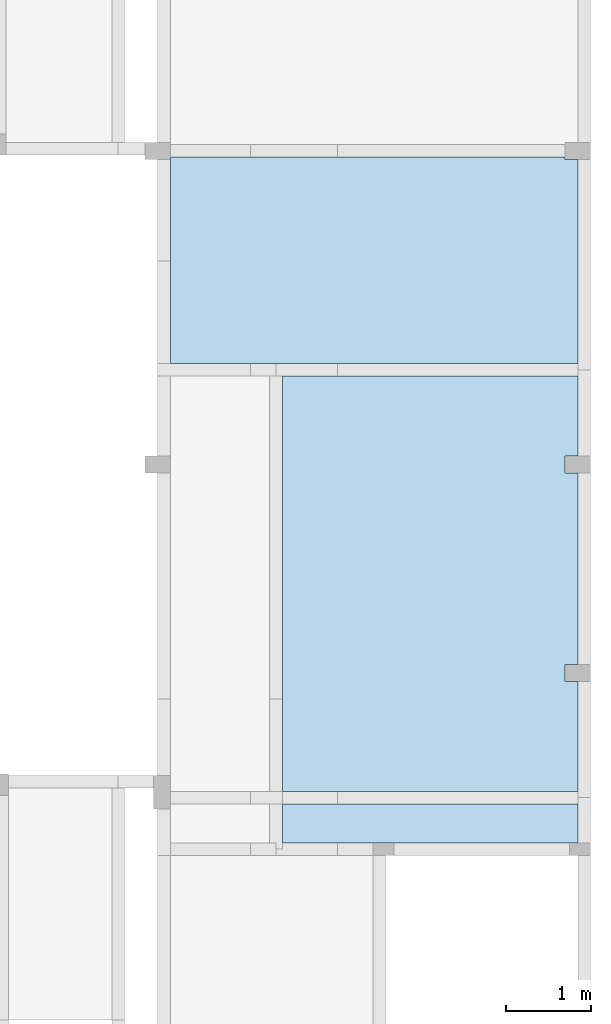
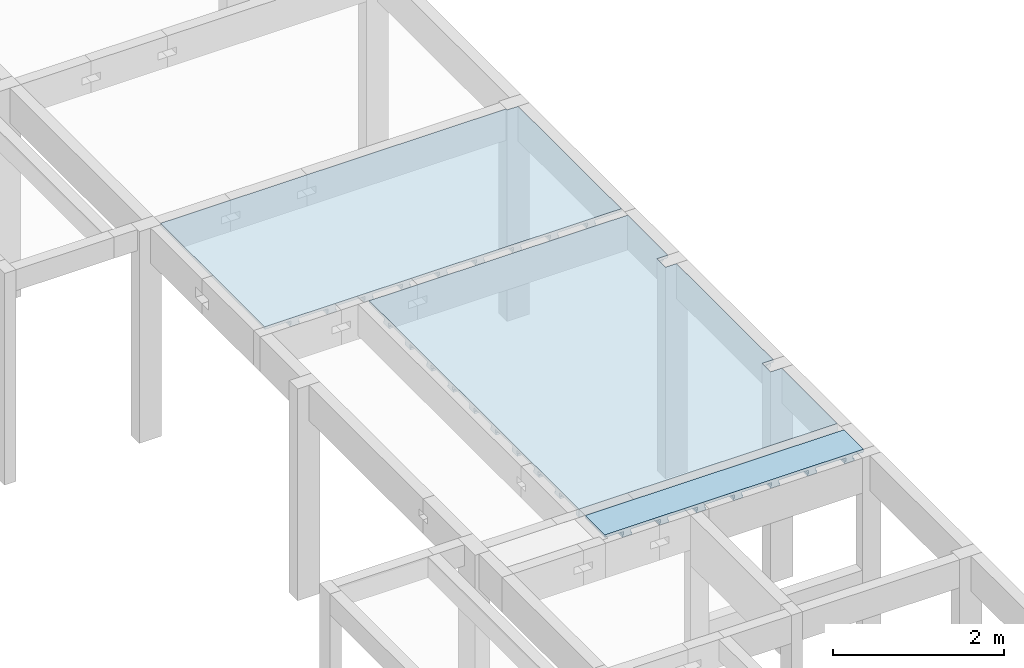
# One storey, part 19 of 21: 3 slabs.
"""IFC4 building model written with IfcOpenShell, lengths in centimetres."""

from ifc_helpers import new_model, si_unit, derived_unit, frame, origin_with_axes, place, context, project, spatial, polyline, outline, extrude, faceted_brep, material, element, save


model = new_model("IFC4")

# Units and contexts
model_context = context("Model", 3, precision=1e-05, world=origin_with_axes(), identifier="Body")
ifc_project = project(units=[si_unit("LENGTHUNIT", "METRE", prefix="CENTI"), si_unit("VOLUMEUNIT", "CUBIC_METRE"), si_unit("AREAUNIT", "SQUARE_METRE"), si_unit("POWERUNIT", "WATT"), si_unit("LUMINOUSFLUXUNIT", "LUMEN"), si_unit("ELECTRICCURRENTUNIT", "AMPERE"), si_unit("PRESSUREUNIT", "PASCAL", prefix="KILO"), si_unit("MASSUNIT", "GRAM", prefix="KILO"), si_unit("PLANEANGLEUNIT", "RADIAN"), derived_unit("VOLUMETRICFLOWRATEUNIT", [(si_unit("LENGTHUNIT", "METRE"), 3), (si_unit("TIMEUNIT", "SECOND"), -1)])], contexts=[model_context])

# Site, building, storey
site_placement = place(None, origin_with_axes())
site = spatial("IfcSite", under=ifc_project, at=site_placement)
building_placement = place(site_placement, frame((0.0, 0.0, -295.0)))
building = spatial("IfcBuilding", under=site, at=building_placement)
placement_1 = place(building_placement, origin_with_axes())
placement_2 = place(placement_1, frame((0.0, 0.0, 101.0), z_axis=(0.0, 0.0, 1.0), x_axis=(1.0, 0.0, 0.0)))
placement_3 = place(placement_2, frame((0.0, 0.0, 204.0), z_axis=(0.0, 0.0, 1.0), x_axis=(1.0, 0.0, 0.0)))
placement_4 = place(placement_3, frame((0.0, 0.0, 292.0), z_axis=(0.0, 0.0, 1.0), x_axis=(1.0, 0.0, 0.0)))
storey_placement = place(placement_4, frame((0.0, 0.0, 302.0), z_axis=(0.0, 0.0, 1.0), x_axis=(1.0, 0.0, 0.0)))
storey = spatial("IfcBuildingStorey", under=building, at=storey_placement, Name="PAVTO 02", CompositionType="ELEMENT", Elevation=604.0)

# Slabs
ifc_material = material(Name="Concreto")
slab_1_placement = place(storey_placement, frame((3761.24, -5897.8, 0.0), z_axis=(0.0, 0.0, 1.0), x_axis=(1.0, 0.0, 0.0)))
element("IfcSlab", 1, at=slab_1_placement, inside=storey, material=ifc_material, Name="L219", PredefinedType="FLOOR", context=model_context, shape_type="SolidModel", body=[
    extrude(outline(polyline([(240.51, 119.249), (225.52, 119.249), (225.52, 121.749), (-240.51, 121.75), (-240.51, -121.749), (240.51, -121.75), (240.51, 119.249), (240.51, 119.249)])), frame((0.0, 0.0, -4.0), z_axis=(0.0, 0.0, 1.0), x_axis=(1.0, 0.0, 0.0)), (0.0, 0.0, 1.0), 4.0),
    faceted_brep([(-5.0, -121.7495, -12.0), (-5.0, 121.7495, -12.0), (5.0, 121.7495, -12.0), (5.0, -121.7495, -12.0), (5.0, -121.7495, -4.0), (5.0, 121.7495, -4.0), (-5.0, 121.7495, -4.0), (-5.0, -121.7495, -4.0)], [[[0, 1, 2, 3]], [[4, 5, 6, 7]], [[4, 3, 5]], [[3, 2, 5]], [[5, 2, 6]], [[2, 1, 6]], [[6, 1, 7]], [[1, 0, 7]], [[7, 0, 4]], [[0, 3, 4]]]),
    faceted_brep([(-6.5, -121.7495, -12.0), (-6.5, 121.7495, -12.0), (-5.0, 121.7495, -12.0), (-5.0, -121.7495, -12.0), (-5.0, -121.7495, -9.0), (-5.0, 121.7495, -9.0), (-6.5, 121.7495, -9.0), (-6.5, -121.7495, -9.0)], [[[0, 1, 2, 3]], [[4, 5, 6, 7]], [[4, 3, 5]], [[3, 2, 5]], [[5, 2, 6]], [[2, 1, 6]], [[6, 1, 7]], [[1, 0, 7]], [[7, 0, 4]], [[0, 3, 4]]]),
    faceted_brep([(5.0, -121.7495, -12.0), (5.0, 121.7495, -12.0), (6.5, 121.7495, -12.0), (6.5, -121.7495, -12.0), (6.5, -121.7495, -9.0), (6.5, 121.7495, -9.0), (5.0, 121.7495, -9.0), (5.0, -121.7495, -9.0)], [[[0, 1, 2, 3]], [[4, 5, 6, 7]], [[4, 3, 5]], [[3, 2, 5]], [[5, 2, 6]], [[2, 1, 6]], [[6, 1, 7]], [[1, 0, 7]], [[7, 0, 4]], [[0, 3, 4]]]),
    faceted_brep([(-55.0, -121.7495, -12.0), (-55.0, 121.7495, -12.0), (-45.0, 121.7495, -12.0), (-45.0, -121.7495, -12.0), (-45.0, -121.7495, -4.0), (-45.0, 121.7495, -4.0), (-55.0, 121.7495, -4.0), (-55.0, -121.7495, -4.0)], [[[0, 1, 2, 3]], [[4, 5, 6, 7]], [[4, 3, 5]], [[3, 2, 5]], [[5, 2, 6]], [[2, 1, 6]], [[6, 1, 7]], [[1, 0, 7]], [[7, 0, 4]], [[0, 3, 4]]]),
    faceted_brep([(-56.5, -121.7495, -12.0), (-56.5, 121.7495, -12.0), (-55.0, 121.7495, -12.0), (-55.0, -121.7495, -12.0), (-55.0, -121.7495, -9.0), (-55.0, 121.7495, -9.0), (-56.5, 121.7495, -9.0), (-56.5, -121.7495, -9.0)], [[[0, 1, 2, 3]], [[4, 5, 6, 7]], [[4, 3, 5]], [[3, 2, 5]], [[5, 2, 6]], [[2, 1, 6]], [[6, 1, 7]], [[1, 0, 7]], [[7, 0, 4]], [[0, 3, 4]]]),
    faceted_brep([(-45.0, -121.7495, -12.0), (-45.0, 121.7495, -12.0), (-43.5, 121.7495, -12.0), (-43.5, -121.7495, -12.0), (-43.5, -121.7495, -9.0), (-43.5, 121.7495, -9.0), (-45.0, 121.7495, -9.0), (-45.0, -121.7495, -9.0)], [[[0, 1, 2, 3]], [[4, 5, 6, 7]], [[4, 3, 5]], [[3, 2, 5]], [[5, 2, 6]], [[2, 1, 6]], [[6, 1, 7]], [[1, 0, 7]], [[7, 0, 4]], [[0, 3, 4]]]),
    faceted_brep([(-105.0, -121.7495, -12.0), (-105.0, 121.7495, -12.0), (-95.0, 121.7495, -12.0), (-95.0, -121.7495, -12.0), (-95.0, -121.7495, -4.0), (-95.0, 121.7495, -4.0), (-105.0, 121.7495, -4.0), (-105.0, -121.7495, -4.0)], [[[0, 1, 2, 3]], [[4, 5, 6, 7]], [[4, 3, 5]], [[3, 2, 5]], [[5, 2, 6]], [[2, 1, 6]], [[6, 1, 7]], [[1, 0, 7]], [[7, 0, 4]], [[0, 3, 4]]]),
    faceted_brep([(-106.5, -121.7495, -12.0), (-106.5, 121.7495, -12.0), (-105.0, 121.7495, -12.0), (-105.0, -121.7495, -12.0), (-105.0, -121.7495, -9.0), (-105.0, 121.7495, -9.0), (-106.5, 121.7495, -9.0), (-106.5, -121.7495, -9.0)], [[[0, 1, 2, 3]], [[4, 5, 6, 7]], [[4, 3, 5]], [[3, 2, 5]], [[5, 2, 6]], [[2, 1, 6]], [[6, 1, 7]], [[1, 0, 7]], [[7, 0, 4]], [[0, 3, 4]]]),
    faceted_brep([(-95.0, -121.7495, -12.0), (-95.0, 121.7495, -12.0), (-93.5, 121.7495, -12.0), (-93.5, -121.7495, -12.0), (-93.5, -121.7495, -9.0), (-93.5, 121.7495, -9.0), (-95.0, 121.7495, -9.0), (-95.0, -121.7495, -9.0)], [[[0, 1, 2, 3]], [[4, 5, 6, 7]], [[4, 3, 5]], [[3, 2, 5]], [[5, 2, 6]], [[2, 1, 6]], [[6, 1, 7]], [[1, 0, 7]], [[7, 0, 4]], [[0, 3, 4]]]),
    faceted_brep([(-155.0, -121.7495, -12.0), (-155.0, 121.7495, -12.0), (-145.0, 121.7495, -12.0), (-145.0, -121.7495, -12.0), (-145.0, -121.7495, -4.0), (-145.0, 121.7495, -4.0), (-155.0, 121.7495, -4.0), (-155.0, -121.7495, -4.0)], [[[0, 1, 2, 3]], [[4, 5, 6, 7]], [[4, 3, 5]], [[3, 2, 5]], [[5, 2, 6]], [[2, 1, 6]], [[6, 1, 7]], [[1, 0, 7]], [[7, 0, 4]], [[0, 3, 4]]]),
    faceted_brep([(-156.5, -121.7495, -12.0), (-156.5, 121.7495, -12.0), (-155.0, 121.7495, -12.0), (-155.0, -121.7495, -12.0), (-155.0, -121.7495, -9.0), (-155.0, 121.7495, -9.0), (-156.5, 121.7495, -9.0), (-156.5, -121.7495, -9.0)], [[[0, 1, 2, 3]], [[4, 5, 6, 7]], [[4, 3, 5]], [[3, 2, 5]], [[5, 2, 6]], [[2, 1, 6]], [[6, 1, 7]], [[1, 0, 7]], [[7, 0, 4]], [[0, 3, 4]]]),
    faceted_brep([(-145.0, -121.7495, -12.0), (-145.0, 121.7495, -12.0), (-143.5, 121.7495, -12.0), (-143.5, -121.7495, -12.0), (-143.5, -121.7495, -9.0), (-143.5, 121.7495, -9.0), (-145.0, 121.7495, -9.0), (-145.0, -121.7495, -9.0)], [[[0, 1, 2, 3]], [[4, 5, 6, 7]], [[4, 3, 5]], [[3, 2, 5]], [[5, 2, 6]], [[2, 1, 6]], [[6, 1, 7]], [[1, 0, 7]], [[7, 0, 4]], [[0, 3, 4]]]),
    faceted_brep([(-205.0, -121.7495, -12.0), (-205.0, 121.7495, -12.0), (-195.0, 121.7495, -12.0), (-195.0, -121.7495, -12.0), (-195.0, -121.7495, -4.0), (-195.0, 121.7495, -4.0), (-205.0, 121.7495, -4.0), (-205.0, -121.7495, -4.0)], [[[0, 1, 2, 3]], [[4, 5, 6, 7]], [[4, 3, 5]], [[3, 2, 5]], [[5, 2, 6]], [[2, 1, 6]], [[6, 1, 7]], [[1, 0, 7]], [[7, 0, 4]], [[0, 3, 4]]]),
    faceted_brep([(-206.5, -121.7495, -12.0), (-206.5, 121.7495, -12.0), (-205.0, 121.7495, -12.0), (-205.0, -121.7495, -12.0), (-205.0, -121.7495, -9.0), (-205.0, 121.7495, -9.0), (-206.5, 121.7495, -9.0), (-206.5, -121.7495, -9.0)], [[[0, 1, 2, 3]], [[4, 5, 6, 7]], [[4, 3, 5]], [[3, 2, 5]], [[5, 2, 6]], [[2, 1, 6]], [[6, 1, 7]], [[1, 0, 7]], [[7, 0, 4]], [[0, 3, 4]]]),
    faceted_brep([(-195.0, -121.7495, -12.0), (-195.0, 121.7495, -12.0), (-193.5, 121.7495, -12.0), (-193.5, -121.7495, -12.0), (-193.5, -121.7495, -9.0), (-193.5, 121.7495, -9.0), (-195.0, 121.7495, -9.0), (-195.0, -121.7495, -9.0)], [[[0, 1, 2, 3]], [[4, 5, 6, 7]], [[4, 3, 5]], [[3, 2, 5]], [[5, 2, 6]], [[2, 1, 6]], [[6, 1, 7]], [[1, 0, 7]], [[7, 0, 4]], [[0, 3, 4]]]),
    faceted_brep([(45.0, -121.7495, -12.0), (45.0, 121.7495, -12.0), (55.0, 121.7495, -12.0), (55.0, -121.7495, -12.0), (55.0, -121.7495, -4.0), (55.0, 121.7495, -4.0), (45.0, 121.7495, -4.0), (45.0, -121.7495, -4.0)], [[[0, 1, 2, 3]], [[4, 5, 6, 7]], [[4, 3, 5]], [[3, 2, 5]], [[5, 2, 6]], [[2, 1, 6]], [[6, 1, 7]], [[1, 0, 7]], [[7, 0, 4]], [[0, 3, 4]]]),
    faceted_brep([(43.5, -121.7495, -12.0), (43.5, 121.7495, -12.0), (45.0, 121.7495, -12.0), (45.0, -121.7495, -12.0), (45.0, -121.7495, -9.0), (45.0, 121.7495, -9.0), (43.5, 121.7495, -9.0), (43.5, -121.7495, -9.0)], [[[0, 1, 2, 3]], [[4, 5, 6, 7]], [[4, 3, 5]], [[3, 2, 5]], [[5, 2, 6]], [[2, 1, 6]], [[6, 1, 7]], [[1, 0, 7]], [[7, 0, 4]], [[0, 3, 4]]]),
    faceted_brep([(55.0, -121.7495, -12.0), (55.0, 121.7495, -12.0), (56.5, 121.7495, -12.0), (56.5, -121.7495, -12.0), (56.5, -121.7495, -9.0), (56.5, 121.7495, -9.0), (55.0, 121.7495, -9.0), (55.0, -121.7495, -9.0)], [[[0, 1, 2, 3]], [[4, 5, 6, 7]], [[4, 3, 5]], [[3, 2, 5]], [[5, 2, 6]], [[2, 1, 6]], [[6, 1, 7]], [[1, 0, 7]], [[7, 0, 4]], [[0, 3, 4]]]),
    faceted_brep([(95.0, -121.7495, -12.0), (95.0, 121.7495, -12.0), (105.0, 121.7495, -12.0), (105.0, -121.7495, -12.0), (105.0, -121.7495, -4.0), (105.0, 121.7495, -4.0), (95.0, 121.7495, -4.0), (95.0, -121.7495, -4.0)], [[[0, 1, 2, 3]], [[4, 5, 6, 7]], [[4, 3, 5]], [[3, 2, 5]], [[5, 2, 6]], [[2, 1, 6]], [[6, 1, 7]], [[1, 0, 7]], [[7, 0, 4]], [[0, 3, 4]]]),
    faceted_brep([(93.5, -121.7495, -12.0), (93.5, 121.7495, -12.0), (95.0, 121.7495, -12.0), (95.0, -121.7495, -12.0), (95.0, -121.7495, -9.0), (95.0, 121.7495, -9.0), (93.5, 121.7495, -9.0), (93.5, -121.7495, -9.0)], [[[0, 1, 2, 3]], [[4, 5, 6, 7]], [[4, 3, 5]], [[3, 2, 5]], [[5, 2, 6]], [[2, 1, 6]], [[6, 1, 7]], [[1, 0, 7]], [[7, 0, 4]], [[0, 3, 4]]]),
    faceted_brep([(105.0, -121.7495, -12.0), (105.0, 121.7495, -12.0), (106.5, 121.7495, -12.0), (106.5, -121.7495, -12.0), (106.5, -121.7495, -9.0), (106.5, 121.7495, -9.0), (105.0, 121.7495, -9.0), (105.0, -121.7495, -9.0)], [[[0, 1, 2, 3]], [[4, 5, 6, 7]], [[4, 3, 5]], [[3, 2, 5]], [[5, 2, 6]], [[2, 1, 6]], [[6, 1, 7]], [[1, 0, 7]], [[7, 0, 4]], [[0, 3, 4]]]),
    faceted_brep([(145.0, -121.7495, -12.0), (145.0, 121.7495, -12.0), (155.0, 121.7495, -12.0), (155.0, -121.7495, -12.0), (155.0, -121.7495, -4.0), (155.0, 121.7495, -4.0), (145.0, 121.7495, -4.0), (145.0, -121.7495, -4.0)], [[[0, 1, 2, 3]], [[4, 5, 6, 7]], [[4, 3, 5]], [[3, 2, 5]], [[5, 2, 6]], [[2, 1, 6]], [[6, 1, 7]], [[1, 0, 7]], [[7, 0, 4]], [[0, 3, 4]]]),
    faceted_brep([(143.5, -121.7495, -12.0), (143.5, 121.7495, -12.0), (145.0, 121.7495, -12.0), (145.0, -121.7495, -12.0), (145.0, -121.7495, -9.0), (145.0, 121.7495, -9.0), (143.5, 121.7495, -9.0), (143.5, -121.7495, -9.0)], [[[0, 1, 2, 3]], [[4, 5, 6, 7]], [[4, 3, 5]], [[3, 2, 5]], [[5, 2, 6]], [[2, 1, 6]], [[6, 1, 7]], [[1, 0, 7]], [[7, 0, 4]], [[0, 3, 4]]]),
    faceted_brep([(155.0, -121.7495, -12.0), (155.0, 121.7495, -12.0), (156.5, 121.7495, -12.0), (156.5, -121.7495, -12.0), (156.5, -121.7495, -9.0), (156.5, 121.7495, -9.0), (155.0, 121.7495, -9.0), (155.0, -121.7495, -9.0)], [[[0, 1, 2, 3]], [[4, 5, 6, 7]], [[4, 3, 5]], [[3, 2, 5]], [[5, 2, 6]], [[2, 1, 6]], [[6, 1, 7]], [[1, 0, 7]], [[7, 0, 4]], [[0, 3, 4]]]),
    faceted_brep([(195.0, -121.7495, -12.0), (195.0, 121.7495, -12.0), (205.0, 121.7495, -12.0), (205.0, -121.7495, -12.0), (205.0, -121.7495, -4.0), (205.0, 121.7495, -4.0), (195.0, 121.7495, -4.0), (195.0, -121.7495, -4.0)], [[[0, 1, 2, 3]], [[4, 5, 6, 7]], [[4, 3, 5]], [[3, 2, 5]], [[5, 2, 6]], [[2, 1, 6]], [[6, 1, 7]], [[1, 0, 7]], [[7, 0, 4]], [[0, 3, 4]]]),
    faceted_brep([(193.5, -121.7495, -12.0), (193.5, 121.7495, -12.0), (195.0, 121.7495, -12.0), (195.0, -121.7495, -12.0), (195.0, -121.7495, -9.0), (195.0, 121.7495, -9.0), (193.5, 121.7495, -9.0), (193.5, -121.7495, -9.0)], [[[0, 1, 2, 3]], [[4, 5, 6, 7]], [[4, 3, 5]], [[3, 2, 5]], [[5, 2, 6]], [[2, 1, 6]], [[6, 1, 7]], [[1, 0, 7]], [[7, 0, 4]], [[0, 3, 4]]]),
    faceted_brep([(205.0, -121.7495, -12.0), (205.0, 121.7495, -12.0), (206.5, 121.7495, -12.0), (206.5, -121.7495, -12.0), (206.5, -121.7495, -9.0), (206.5, 121.7495, -9.0), (205.0, 121.7495, -9.0), (205.0, -121.7495, -9.0)], [[[0, 1, 2, 3]], [[4, 5, 6, 7]], [[4, 3, 5]], [[3, 2, 5]], [[5, 2, 6]], [[2, 1, 6]], [[6, 1, 7]], [[1, 0, 7]], [[7, 0, 4]], [[0, 3, 4]]]),
])
slab_2_placement = place(storey_placement, frame((3827.325, -6279.5505, 0.0), z_axis=(0.0, 0.0, 1.0), x_axis=(1.0, 0.0, 0.0)))
element("IfcSlab", 2, at=slab_2_placement, inside=storey, material=ifc_material, Name="L223", PredefinedType="FLOOR", context=model_context, shape_type="SolidModel", body=[
    extrude(outline(polyline([(174.425, -115.1), (159.435, -115.099), (159.435, -95.099), (174.424, -95.1), (174.424, 130.999), (159.435, 130.999), (159.435, 150.999), (174.424, 151.0), (174.425, 244.999), (-174.424, 244.999), (-174.425, -245.0), (174.425, -245.0), (174.425, -115.1), (174.425, -115.1)])), frame((0.0, 0.0005, -4.0), z_axis=(0.0, 0.0, 1.0), x_axis=(1.0, 0.0, 0.0)), (0.0, 0.0, 1.0), 4.0),
    faceted_brep([(-174.4245, -189.9995, -12.0), (174.425, -189.9995, -12.0), (174.425, -199.9995, -12.0), (-174.4245, -199.9995, -12.0), (-174.4245, -199.9995, -4.0), (174.425, -199.9995, -4.0), (174.425, -189.9995, -4.0), (-174.4245, -189.9995, -4.0)], [[[0, 1, 2, 3]], [[4, 5, 6, 7]], [[4, 3, 5]], [[3, 2, 5]], [[5, 2, 6]], [[2, 1, 6]], [[6, 1, 7]], [[1, 0, 7]], [[7, 0, 4]], [[0, 3, 4]]]),
    faceted_brep([(-174.4245, -188.4995, -12.0), (174.425, -188.4995, -12.0), (174.425, -189.9995, -12.0), (-174.4245, -189.9995, -12.0), (-174.4245, -189.9995, -9.0), (174.425, -189.9995, -9.0), (174.425, -188.4995, -9.0), (-174.4245, -188.4995, -9.0)], [[[0, 1, 2, 3]], [[4, 5, 6, 7]], [[4, 3, 5]], [[3, 2, 5]], [[5, 2, 6]], [[2, 1, 6]], [[6, 1, 7]], [[1, 0, 7]], [[7, 0, 4]], [[0, 3, 4]]]),
    faceted_brep([(-174.4245, -199.9995, -12.0), (174.425, -199.9995, -12.0), (174.425, -201.4995, -12.0), (-174.4245, -201.4995, -12.0), (-174.4245, -201.4995, -9.0), (174.425, -201.4995, -9.0), (174.425, -199.9995, -9.0), (-174.4245, -199.9995, -9.0)], [[[0, 1, 2, 3]], [[4, 5, 6, 7]], [[4, 3, 5]], [[3, 2, 5]], [[5, 2, 6]], [[2, 1, 6]], [[6, 1, 7]], [[1, 0, 7]], [[7, 0, 4]], [[0, 3, 4]]]),
    faceted_brep([(-174.4245, -139.9995, -12.0), (174.425, -139.9995, -12.0), (174.425, -149.9995, -12.0), (-174.4245, -149.9995, -12.0), (-174.4245, -149.9995, -4.0), (174.425, -149.9995, -4.0), (174.425, -139.9995, -4.0), (-174.4245, -139.9995, -4.0)], [[[0, 1, 2, 3]], [[4, 5, 6, 7]], [[4, 3, 5]], [[3, 2, 5]], [[5, 2, 6]], [[2, 1, 6]], [[6, 1, 7]], [[1, 0, 7]], [[7, 0, 4]], [[0, 3, 4]]]),
    faceted_brep([(-174.4245, -138.4995, -12.0), (174.425, -138.4995, -12.0), (174.425, -139.9995, -12.0), (-174.4245, -139.9995, -12.0), (-174.4245, -139.9995, -9.0), (174.425, -139.9995, -9.0), (174.425, -138.4995, -9.0), (-174.4245, -138.4995, -9.0)], [[[0, 1, 2, 3]], [[4, 5, 6, 7]], [[4, 3, 5]], [[3, 2, 5]], [[5, 2, 6]], [[2, 1, 6]], [[6, 1, 7]], [[1, 0, 7]], [[7, 0, 4]], [[0, 3, 4]]]),
    faceted_brep([(-174.4245, -149.9995, -12.0), (174.425, -149.9995, -12.0), (174.425, -151.4995, -12.0), (-174.4245, -151.4995, -12.0), (-174.4245, -151.4995, -9.0), (174.425, -151.4995, -9.0), (174.425, -149.9995, -9.0), (-174.4245, -149.9995, -9.0)], [[[0, 1, 2, 3]], [[4, 5, 6, 7]], [[4, 3, 5]], [[3, 2, 5]], [[5, 2, 6]], [[2, 1, 6]], [[6, 1, 7]], [[1, 0, 7]], [[7, 0, 4]], [[0, 3, 4]]]),
    faceted_brep([(-174.4245, -89.9995, -12.0), (174.424, -89.9995, -12.0), (159.435, -99.9995, -12.0), (-174.4245, -99.9995, -12.0), (-174.4245, -99.9995, -4.0), (159.435, -99.9995, -4.0), (174.424, -89.9995, -4.0), (-174.4245, -89.9995, -4.0)], [[[0, 1, 2, 3]], [[4, 5, 6, 7]], [[4, 3, 5]], [[3, 2, 5]], [[5, 2, 6]], [[2, 1, 6]], [[6, 1, 7]], [[1, 0, 7]], [[7, 0, 4]], [[0, 3, 4]]]),
    faceted_brep([(-174.4245, -88.4995, -12.0), (174.424, -88.4995, -12.0), (174.424, -89.9995, -12.0), (-174.4245, -89.9995, -12.0), (-174.4245, -89.9995, -9.0), (174.424, -89.9995, -9.0), (174.424, -88.4995, -9.0), (-174.4245, -88.4995, -9.0)], [[[0, 1, 2, 3]], [[4, 5, 6, 7]], [[4, 3, 5]], [[3, 2, 5]], [[5, 2, 6]], [[2, 1, 6]], [[6, 1, 7]], [[1, 0, 7]], [[7, 0, 4]], [[0, 3, 4]]]),
    faceted_brep([(-174.4245, -99.9995, -12.0), (159.435, -99.9995, -12.0), (159.435, -101.4995, -12.0), (-174.4245, -101.4995, -12.0), (-174.4245, -101.4995, -9.0), (159.435, -101.4995, -9.0), (159.435, -99.9995, -9.0), (-174.4245, -99.9995, -9.0)], [[[0, 1, 2, 3]], [[4, 5, 6, 7]], [[4, 3, 5]], [[3, 2, 5]], [[5, 2, 6]], [[2, 1, 6]], [[6, 1, 7]], [[1, 0, 7]], [[7, 0, 4]], [[0, 3, 4]]]),
    faceted_brep([(-174.4245, -39.9995, -12.0), (174.424, -39.9995, -12.0), (174.424, -49.9995, -12.0), (-174.4245, -49.9995, -12.0), (-174.4245, -49.9995, -4.0), (174.424, -49.9995, -4.0), (174.424, -39.9995, -4.0), (-174.4245, -39.9995, -4.0)], [[[0, 1, 2, 3]], [[4, 5, 6, 7]], [[4, 3, 5]], [[3, 2, 5]], [[5, 2, 6]], [[2, 1, 6]], [[6, 1, 7]], [[1, 0, 7]], [[7, 0, 4]], [[0, 3, 4]]]),
    faceted_brep([(-174.4245, -38.4995, -12.0), (174.424, -38.4995, -12.0), (174.424, -39.9995, -12.0), (-174.4245, -39.9995, -12.0), (-174.4245, -39.9995, -9.0), (174.424, -39.9995, -9.0), (174.424, -38.4995, -9.0), (-174.4245, -38.4995, -9.0)], [[[0, 1, 2, 3]], [[4, 5, 6, 7]], [[4, 3, 5]], [[3, 2, 5]], [[5, 2, 6]], [[2, 1, 6]], [[6, 1, 7]], [[1, 0, 7]], [[7, 0, 4]], [[0, 3, 4]]]),
    faceted_brep([(-174.4245, -49.9995, -12.0), (174.424, -49.9995, -12.0), (174.424, -51.4995, -12.0), (-174.4245, -51.4995, -12.0), (-174.4245, -51.4995, -9.0), (174.424, -51.4995, -9.0), (174.424, -49.9995, -9.0), (-174.4245, -49.9995, -9.0)], [[[0, 1, 2, 3]], [[4, 5, 6, 7]], [[4, 3, 5]], [[3, 2, 5]], [[5, 2, 6]], [[2, 1, 6]], [[6, 1, 7]], [[1, 0, 7]], [[7, 0, 4]], [[0, 3, 4]]]),
    faceted_brep([(-174.4245, 10.0005, -12.0), (174.424, 10.0005, -12.0), (174.424, 0.0005, -12.0), (-174.4245, 0.0005, -12.0), (-174.4245, 0.0005, -4.0), (174.424, 0.0005, -4.0), (174.424, 10.0005, -4.0), (-174.4245, 10.0005, -4.0)], [[[0, 1, 2, 3]], [[4, 5, 6, 7]], [[4, 3, 5]], [[3, 2, 5]], [[5, 2, 6]], [[2, 1, 6]], [[6, 1, 7]], [[1, 0, 7]], [[7, 0, 4]], [[0, 3, 4]]]),
    faceted_brep([(-174.4245, 11.5005, -12.0), (174.424, 11.5005, -12.0), (174.424, 10.0005, -12.0), (-174.4245, 10.0005, -12.0), (-174.4245, 10.0005, -9.0), (174.424, 10.0005, -9.0), (174.424, 11.5005, -9.0), (-174.4245, 11.5005, -9.0)], [[[0, 1, 2, 3]], [[4, 5, 6, 7]], [[4, 3, 5]], [[3, 2, 5]], [[5, 2, 6]], [[2, 1, 6]], [[6, 1, 7]], [[1, 0, 7]], [[7, 0, 4]], [[0, 3, 4]]]),
    faceted_brep([(-174.4245, 0.0005, -12.0), (174.424, 0.0005, -12.0), (174.424, -1.4995, -12.0), (-174.4245, -1.4995, -12.0), (-174.4245, -1.4995, -9.0), (174.424, -1.4995, -9.0), (174.424, 0.0005, -9.0), (-174.4245, 0.0005, -9.0)], [[[0, 1, 2, 3]], [[4, 5, 6, 7]], [[4, 3, 5]], [[3, 2, 5]], [[5, 2, 6]], [[2, 1, 6]], [[6, 1, 7]], [[1, 0, 7]], [[7, 0, 4]], [[0, 3, 4]]]),
    faceted_brep([(-174.4245, 60.0005, -12.0), (174.424, 60.0005, -12.0), (174.424, 50.0005, -12.0), (-174.4245, 50.0005, -12.0), (-174.4245, 50.0005, -4.0), (174.424, 50.0005, -4.0), (174.424, 60.0005, -4.0), (-174.4245, 60.0005, -4.0)], [[[0, 1, 2, 3]], [[4, 5, 6, 7]], [[4, 3, 5]], [[3, 2, 5]], [[5, 2, 6]], [[2, 1, 6]], [[6, 1, 7]], [[1, 0, 7]], [[7, 0, 4]], [[0, 3, 4]]]),
    faceted_brep([(-174.4245, 61.5005, -12.0), (174.424, 61.5005, -12.0), (174.424, 60.0005, -12.0), (-174.4245, 60.0005, -12.0), (-174.4245, 60.0005, -9.0), (174.424, 60.0005, -9.0), (174.424, 61.5005, -9.0), (-174.4245, 61.5005, -9.0)], [[[0, 1, 2, 3]], [[4, 5, 6, 7]], [[4, 3, 5]], [[3, 2, 5]], [[5, 2, 6]], [[2, 1, 6]], [[6, 1, 7]], [[1, 0, 7]], [[7, 0, 4]], [[0, 3, 4]]]),
    faceted_brep([(-174.4245, 50.0005, -12.0), (174.424, 50.0005, -12.0), (174.424, 48.5005, -12.0), (-174.4245, 48.5005, -12.0), (-174.4245, 48.5005, -9.0), (174.424, 48.5005, -9.0), (174.424, 50.0005, -9.0), (-174.4245, 50.0005, -9.0)], [[[0, 1, 2, 3]], [[4, 5, 6, 7]], [[4, 3, 5]], [[3, 2, 5]], [[5, 2, 6]], [[2, 1, 6]], [[6, 1, 7]], [[1, 0, 7]], [[7, 0, 4]], [[0, 3, 4]]]),
    faceted_brep([(-174.4245, 110.0005, -12.0), (174.424, 110.0005, -12.0), (174.424, 100.0005, -12.0), (-174.4245, 100.0005, -12.0), (-174.4245, 100.0005, -4.0), (174.424, 100.0005, -4.0), (174.424, 110.0005, -4.0), (-174.4245, 110.0005, -4.0)], [[[0, 1, 2, 3]], [[4, 5, 6, 7]], [[4, 3, 5]], [[3, 2, 5]], [[5, 2, 6]], [[2, 1, 6]], [[6, 1, 7]], [[1, 0, 7]], [[7, 0, 4]], [[0, 3, 4]]]),
    faceted_brep([(-174.4245, 111.5005, -12.0), (174.424, 111.5005, -12.0), (174.424, 110.0005, -12.0), (-174.4245, 110.0005, -12.0), (-174.4245, 110.0005, -9.0), (174.424, 110.0005, -9.0), (174.424, 111.5005, -9.0), (-174.4245, 111.5005, -9.0)], [[[0, 1, 2, 3]], [[4, 5, 6, 7]], [[4, 3, 5]], [[3, 2, 5]], [[5, 2, 6]], [[2, 1, 6]], [[6, 1, 7]], [[1, 0, 7]], [[7, 0, 4]], [[0, 3, 4]]]),
    faceted_brep([(-174.4245, 100.0005, -12.0), (174.424, 100.0005, -12.0), (174.424, 98.5005, -12.0), (-174.4245, 98.5005, -12.0), (-174.4245, 98.5005, -9.0), (174.424, 98.5005, -9.0), (174.424, 100.0005, -9.0), (-174.4245, 100.0005, -9.0)], [[[0, 1, 2, 3]], [[4, 5, 6, 7]], [[4, 3, 5]], [[3, 2, 5]], [[5, 2, 6]], [[2, 1, 6]], [[6, 1, 7]], [[1, 0, 7]], [[7, 0, 4]], [[0, 3, 4]]]),
    faceted_brep([(-174.4245, 160.0005, -12.0), (174.4245, 160.0005, -12.0), (159.435, 150.0005, -12.0), (-174.4245, 150.0005, -12.0), (-174.4245, 150.0005, -4.0), (159.435, 150.0005, -4.0), (174.4245, 160.0005, -4.0), (-174.4245, 160.0005, -4.0)], [[[0, 1, 2, 3]], [[4, 5, 6, 7]], [[4, 3, 5]], [[3, 2, 5]], [[5, 2, 6]], [[2, 1, 6]], [[6, 1, 7]], [[1, 0, 7]], [[7, 0, 4]], [[0, 3, 4]]]),
    faceted_brep([(-174.4245, 161.5005, -12.0), (174.4245, 161.5005, -12.0), (174.4245, 160.0005, -12.0), (-174.4245, 160.0005, -12.0), (-174.4245, 160.0005, -9.0), (174.4245, 160.0005, -9.0), (174.4245, 161.5005, -9.0), (-174.4245, 161.5005, -9.0)], [[[0, 1, 2, 3]], [[4, 5, 6, 7]], [[4, 3, 5]], [[3, 2, 5]], [[5, 2, 6]], [[2, 1, 6]], [[6, 1, 7]], [[1, 0, 7]], [[7, 0, 4]], [[0, 3, 4]]]),
    faceted_brep([(-174.4245, 150.0005, -12.0), (159.435, 150.0005, -12.0), (159.435, 148.5005, -12.0), (-174.4245, 148.5005, -12.0), (-174.4245, 148.5005, -9.0), (159.435, 148.5005, -9.0), (159.435, 150.0005, -9.0), (-174.4245, 150.0005, -9.0)], [[[0, 1, 2, 3]], [[4, 5, 6, 7]], [[4, 3, 5]], [[3, 2, 5]], [[5, 2, 6]], [[2, 1, 6]], [[6, 1, 7]], [[1, 0, 7]], [[7, 0, 4]], [[0, 3, 4]]]),
    faceted_brep([(-174.4245, 210.0005, -12.0), (174.4245, 210.0005, -12.0), (174.4245, 200.0005, -12.0), (-174.4245, 200.0005, -12.0), (-174.4245, 200.0005, -4.0), (174.4245, 200.0005, -4.0), (174.4245, 210.0005, -4.0), (-174.4245, 210.0005, -4.0)], [[[0, 1, 2, 3]], [[4, 5, 6, 7]], [[4, 3, 5]], [[3, 2, 5]], [[5, 2, 6]], [[2, 1, 6]], [[6, 1, 7]], [[1, 0, 7]], [[7, 0, 4]], [[0, 3, 4]]]),
    faceted_brep([(-174.4245, 211.5005, -12.0), (174.4245, 211.5005, -12.0), (174.4245, 210.0005, -12.0), (-174.4245, 210.0005, -12.0), (-174.4245, 210.0005, -9.0), (174.4245, 210.0005, -9.0), (174.4245, 211.5005, -9.0), (-174.4245, 211.5005, -9.0)], [[[0, 1, 2, 3]], [[4, 5, 6, 7]], [[4, 3, 5]], [[3, 2, 5]], [[5, 2, 6]], [[2, 1, 6]], [[6, 1, 7]], [[1, 0, 7]], [[7, 0, 4]], [[0, 3, 4]]]),
    faceted_brep([(-174.4245, 200.0005, -12.0), (174.4245, 200.0005, -12.0), (174.4245, 198.5005, -12.0), (-174.4245, 198.5005, -12.0), (-174.4245, 198.5005, -9.0), (174.4245, 198.5005, -9.0), (174.4245, 200.0005, -9.0), (-174.4245, 200.0005, -9.0)], [[[0, 1, 2, 3]], [[4, 5, 6, 7]], [[4, 3, 5]], [[3, 2, 5]], [[5, 2, 6]], [[2, 1, 6]], [[6, 1, 7]], [[1, 0, 7]], [[7, 0, 4]], [[0, 3, 4]]]),
    faceted_brep([(-174.4245, -239.9995, -12.0), (174.425, -239.9995, -12.0), (174.425, -244.9995, -12.0), (-174.4245, -244.9995, -12.0), (-174.4245, -244.9995, -4.0), (174.425, -244.9995, -4.0), (174.425, -239.9995, -4.0), (-174.4245, -239.9995, -4.0)], [[[0, 1, 2, 3]], [[4, 5, 6, 7]], [[4, 3, 5]], [[3, 2, 5]], [[5, 2, 6]], [[2, 1, 6]], [[6, 1, 7]], [[1, 0, 7]], [[7, 0, 4]], [[0, 3, 4]]]),
    faceted_brep([(-174.4245, -238.4995, -12.0), (174.425, -238.4995, -12.0), (174.425, -239.9995, -12.0), (-174.4245, -239.9995, -12.0), (-174.4245, -239.9995, -9.0), (174.425, -239.9995, -9.0), (174.425, -238.4995, -9.0), (-174.4245, -238.4995, -9.0)], [[[0, 1, 2, 3]], [[4, 5, 6, 7]], [[4, 3, 5]], [[3, 2, 5]], [[5, 2, 6]], [[2, 1, 6]], [[6, 1, 7]], [[1, 0, 7]], [[7, 0, 4]], [[0, 3, 4]]]),
])
slab_3_placement = place(storey_placement, frame((3827.3245, -6562.4305, 0.0), z_axis=(0.0, 0.0, 1.0), x_axis=(1.0, 0.0, 0.0)))
element("IfcSlab", 3, at=slab_3_placement, inside=storey, material=ifc_material, Name="L230", PredefinedType="FLOOR", context=model_context, shape_type="SolidModel", body=[
    extrude(outline(polyline([(174.424, 22.879), (-174.425, 22.879), (-174.424, -22.88), (174.424, -22.88), (174.424, 22.879), (174.424, 22.879)])), frame((0.0005, 0.0005, -4.0), z_axis=(0.0, 0.0, 1.0), x_axis=(1.0, 0.0, 0.0)), (0.0, 0.0, 1.0), 4.0),
    faceted_brep([(-99.4245, -22.8795, -12.0), (-99.4245, 22.8795, -12.0), (-89.4245, 22.8795, -12.0), (-89.4245, -22.8795, -12.0), (-89.4245, -22.8795, -4.0), (-89.4245, 22.8795, -4.0), (-99.4245, 22.8795, -4.0), (-99.4245, -22.8795, -4.0)], [[[0, 1, 2, 3]], [[4, 5, 6, 7]], [[4, 3, 5]], [[3, 2, 5]], [[5, 2, 6]], [[2, 1, 6]], [[6, 1, 7]], [[1, 0, 7]], [[7, 0, 4]], [[0, 3, 4]]]),
    faceted_brep([(-100.9245, -22.8795, -12.0), (-100.9245, 22.8795, -12.0), (-99.4245, 22.8795, -12.0), (-99.4245, -22.8795, -12.0), (-99.4245, -22.8795, -9.0), (-99.4245, 22.8795, -9.0), (-100.9245, 22.8795, -9.0), (-100.9245, -22.8795, -9.0)], [[[0, 1, 2, 3]], [[4, 5, 6, 7]], [[4, 3, 5]], [[3, 2, 5]], [[5, 2, 6]], [[2, 1, 6]], [[6, 1, 7]], [[1, 0, 7]], [[7, 0, 4]], [[0, 3, 4]]]),
    faceted_brep([(-89.4245, -22.8795, -12.0), (-89.4245, 22.8795, -12.0), (-87.9245, 22.8795, -12.0), (-87.9245, -22.8795, -12.0), (-87.9245, -22.8795, -9.0), (-87.9245, 22.8795, -9.0), (-89.4245, 22.8795, -9.0), (-89.4245, -22.8795, -9.0)], [[[0, 1, 2, 3]], [[4, 5, 6, 7]], [[4, 3, 5]], [[3, 2, 5]], [[5, 2, 6]], [[2, 1, 6]], [[6, 1, 7]], [[1, 0, 7]], [[7, 0, 4]], [[0, 3, 4]]]),
    faceted_brep([(-149.4245, -22.8795, -12.0), (-149.4245, 22.8795, -12.0), (-139.4245, 22.8795, -12.0), (-139.4245, -22.8795, -12.0), (-139.4245, -22.8795, -4.0), (-139.4245, 22.8795, -4.0), (-149.4245, 22.8795, -4.0), (-149.4245, -22.8795, -4.0)], [[[0, 1, 2, 3]], [[4, 5, 6, 7]], [[4, 3, 5]], [[3, 2, 5]], [[5, 2, 6]], [[2, 1, 6]], [[6, 1, 7]], [[1, 0, 7]], [[7, 0, 4]], [[0, 3, 4]]]),
    faceted_brep([(-150.9245, -22.8795, -12.0), (-150.9245, 22.8795, -12.0), (-149.4245, 22.8795, -12.0), (-149.4245, -22.8795, -12.0), (-149.4245, -22.8795, -9.0), (-149.4245, 22.8795, -9.0), (-150.9245, 22.8795, -9.0), (-150.9245, -22.8795, -9.0)], [[[0, 1, 2, 3]], [[4, 5, 6, 7]], [[4, 3, 5]], [[3, 2, 5]], [[5, 2, 6]], [[2, 1, 6]], [[6, 1, 7]], [[1, 0, 7]], [[7, 0, 4]], [[0, 3, 4]]]),
    faceted_brep([(-139.4245, -22.8795, -12.0), (-139.4245, 22.8795, -12.0), (-137.9245, 22.8795, -12.0), (-137.9245, -22.8795, -12.0), (-137.9245, -22.8795, -9.0), (-137.9245, 22.8795, -9.0), (-139.4245, 22.8795, -9.0), (-139.4245, -22.8795, -9.0)], [[[0, 1, 2, 3]], [[4, 5, 6, 7]], [[4, 3, 5]], [[3, 2, 5]], [[5, 2, 6]], [[2, 1, 6]], [[6, 1, 7]], [[1, 0, 7]], [[7, 0, 4]], [[0, 3, 4]]]),
    faceted_brep([(-49.4245, -22.8795, -12.0), (-49.4245, 22.8795, -12.0), (-39.4245, 22.8795, -12.0), (-39.4245, -22.8795, -12.0), (-39.4245, -22.8795, -4.0), (-39.4245, 22.8795, -4.0), (-49.4245, 22.8795, -4.0), (-49.4245, -22.8795, -4.0)], [[[0, 1, 2, 3]], [[4, 5, 6, 7]], [[4, 3, 5]], [[3, 2, 5]], [[5, 2, 6]], [[2, 1, 6]], [[6, 1, 7]], [[1, 0, 7]], [[7, 0, 4]], [[0, 3, 4]]]),
    faceted_brep([(-50.9245, -22.8795, -12.0), (-50.9245, 22.8795, -12.0), (-49.4245, 22.8795, -12.0), (-49.4245, -22.8795, -12.0), (-49.4245, -22.8795, -9.0), (-49.4245, 22.8795, -9.0), (-50.9245, 22.8795, -9.0), (-50.9245, -22.8795, -9.0)], [[[0, 1, 2, 3]], [[4, 5, 6, 7]], [[4, 3, 5]], [[3, 2, 5]], [[5, 2, 6]], [[2, 1, 6]], [[6, 1, 7]], [[1, 0, 7]], [[7, 0, 4]], [[0, 3, 4]]]),
    faceted_brep([(-39.4245, -22.8795, -12.0), (-39.4245, 22.8795, -12.0), (-37.9245, 22.8795, -12.0), (-37.9245, -22.8795, -12.0), (-37.9245, -22.8795, -9.0), (-37.9245, 22.8795, -9.0), (-39.4245, 22.8795, -9.0), (-39.4245, -22.8795, -9.0)], [[[0, 1, 2, 3]], [[4, 5, 6, 7]], [[4, 3, 5]], [[3, 2, 5]], [[5, 2, 6]], [[2, 1, 6]], [[6, 1, 7]], [[1, 0, 7]], [[7, 0, 4]], [[0, 3, 4]]]),
    faceted_brep([(0.5755, -22.8795, -12.0), (0.5755, 22.8795, -12.0), (10.5755, 22.8795, -12.0), (10.5755, -22.8795, -12.0), (10.5755, -22.8795, -4.0), (10.5755, 22.8795, -4.0), (0.5755, 22.8795, -4.0), (0.5755, -22.8795, -4.0)], [[[0, 1, 2, 3]], [[4, 5, 6, 7]], [[4, 3, 5]], [[3, 2, 5]], [[5, 2, 6]], [[2, 1, 6]], [[6, 1, 7]], [[1, 0, 7]], [[7, 0, 4]], [[0, 3, 4]]]),
    faceted_brep([(-0.9245, -22.8795, -12.0), (-0.9245, 22.8795, -12.0), (0.5755, 22.8795, -12.0), (0.5755, -22.8795, -12.0), (0.5755, -22.8795, -9.0), (0.5755, 22.8795, -9.0), (-0.9245, 22.8795, -9.0), (-0.9245, -22.8795, -9.0)], [[[0, 1, 2, 3]], [[4, 5, 6, 7]], [[4, 3, 5]], [[3, 2, 5]], [[5, 2, 6]], [[2, 1, 6]], [[6, 1, 7]], [[1, 0, 7]], [[7, 0, 4]], [[0, 3, 4]]]),
    faceted_brep([(10.5755, -22.8795, -12.0), (10.5755, 22.8795, -12.0), (12.0755, 22.8795, -12.0), (12.0755, -22.8795, -12.0), (12.0755, -22.8795, -9.0), (12.0755, 22.8795, -9.0), (10.5755, 22.8795, -9.0), (10.5755, -22.8795, -9.0)], [[[0, 1, 2, 3]], [[4, 5, 6, 7]], [[4, 3, 5]], [[3, 2, 5]], [[5, 2, 6]], [[2, 1, 6]], [[6, 1, 7]], [[1, 0, 7]], [[7, 0, 4]], [[0, 3, 4]]]),
    faceted_brep([(50.5755, -22.8795, -12.0), (50.5755, 22.8795, -12.0), (60.5755, 22.8795, -12.0), (60.5755, -22.8795, -12.0), (60.5755, -22.8795, -4.0), (60.5755, 22.8795, -4.0), (50.5755, 22.8795, -4.0), (50.5755, -22.8795, -4.0)], [[[0, 1, 2, 3]], [[4, 5, 6, 7]], [[4, 3, 5]], [[3, 2, 5]], [[5, 2, 6]], [[2, 1, 6]], [[6, 1, 7]], [[1, 0, 7]], [[7, 0, 4]], [[0, 3, 4]]]),
    faceted_brep([(49.0755, -22.8795, -12.0), (49.0755, 22.8795, -12.0), (50.5755, 22.8795, -12.0), (50.5755, -22.8795, -12.0), (50.5755, -22.8795, -9.0), (50.5755, 22.8795, -9.0), (49.0755, 22.8795, -9.0), (49.0755, -22.8795, -9.0)], [[[0, 1, 2, 3]], [[4, 5, 6, 7]], [[4, 3, 5]], [[3, 2, 5]], [[5, 2, 6]], [[2, 1, 6]], [[6, 1, 7]], [[1, 0, 7]], [[7, 0, 4]], [[0, 3, 4]]]),
    faceted_brep([(60.5755, -22.8795, -12.0), (60.5755, 22.8795, -12.0), (62.0755, 22.8795, -12.0), (62.0755, -22.8795, -12.0), (62.0755, -22.8795, -9.0), (62.0755, 22.8795, -9.0), (60.5755, 22.8795, -9.0), (60.5755, -22.8795, -9.0)], [[[0, 1, 2, 3]], [[4, 5, 6, 7]], [[4, 3, 5]], [[3, 2, 5]], [[5, 2, 6]], [[2, 1, 6]], [[6, 1, 7]], [[1, 0, 7]], [[7, 0, 4]], [[0, 3, 4]]]),
    faceted_brep([(100.5755, -22.8795, -12.0), (100.5755, 22.8795, -12.0), (110.5755, 22.8795, -12.0), (110.5755, -22.8795, -12.0), (110.5755, -22.8795, -4.0), (110.5755, 22.8795, -4.0), (100.5755, 22.8795, -4.0), (100.5755, -22.8795, -4.0)], [[[0, 1, 2, 3]], [[4, 5, 6, 7]], [[4, 3, 5]], [[3, 2, 5]], [[5, 2, 6]], [[2, 1, 6]], [[6, 1, 7]], [[1, 0, 7]], [[7, 0, 4]], [[0, 3, 4]]]),
    faceted_brep([(99.0755, -22.8795, -12.0), (99.0755, 22.8795, -12.0), (100.5755, 22.8795, -12.0), (100.5755, -22.8795, -12.0), (100.5755, -22.8795, -9.0), (100.5755, 22.8795, -9.0), (99.0755, 22.8795, -9.0), (99.0755, -22.8795, -9.0)], [[[0, 1, 2, 3]], [[4, 5, 6, 7]], [[4, 3, 5]], [[3, 2, 5]], [[5, 2, 6]], [[2, 1, 6]], [[6, 1, 7]], [[1, 0, 7]], [[7, 0, 4]], [[0, 3, 4]]]),
    faceted_brep([(110.5755, -22.8795, -12.0), (110.5755, 22.8795, -12.0), (112.0755, 22.8795, -12.0), (112.0755, -22.8795, -12.0), (112.0755, -22.8795, -9.0), (112.0755, 22.8795, -9.0), (110.5755, 22.8795, -9.0), (110.5755, -22.8795, -9.0)], [[[0, 1, 2, 3]], [[4, 5, 6, 7]], [[4, 3, 5]], [[3, 2, 5]], [[5, 2, 6]], [[2, 1, 6]], [[6, 1, 7]], [[1, 0, 7]], [[7, 0, 4]], [[0, 3, 4]]]),
    faceted_brep([(150.5755, -22.8795, -12.0), (150.5755, 22.8795, -12.0), (160.5755, 22.8795, -12.0), (160.5755, -22.8795, -12.0), (160.5755, -22.8795, -4.0), (160.5755, 22.8795, -4.0), (150.5755, 22.8795, -4.0), (150.5755, -22.8795, -4.0)], [[[0, 1, 2, 3]], [[4, 5, 6, 7]], [[4, 3, 5]], [[3, 2, 5]], [[5, 2, 6]], [[2, 1, 6]], [[6, 1, 7]], [[1, 0, 7]], [[7, 0, 4]], [[0, 3, 4]]]),
    faceted_brep([(149.0755, -22.8795, -12.0), (149.0755, 22.8795, -12.0), (150.5755, 22.8795, -12.0), (150.5755, -22.8795, -12.0), (150.5755, -22.8795, -9.0), (150.5755, 22.8795, -9.0), (149.0755, 22.8795, -9.0), (149.0755, -22.8795, -9.0)], [[[0, 1, 2, 3]], [[4, 5, 6, 7]], [[4, 3, 5]], [[3, 2, 5]], [[5, 2, 6]], [[2, 1, 6]], [[6, 1, 7]], [[1, 0, 7]], [[7, 0, 4]], [[0, 3, 4]]]),
    faceted_brep([(160.5755, -22.8795, -12.0), (160.5755, 22.8795, -12.0), (162.0755, 22.8795, -12.0), (162.0755, -22.8795, -12.0), (162.0755, -22.8795, -9.0), (162.0755, 22.8795, -9.0), (160.5755, 22.8795, -9.0), (160.5755, -22.8795, -9.0)], [[[0, 1, 2, 3]], [[4, 5, 6, 7]], [[4, 3, 5]], [[3, 2, 5]], [[5, 2, 6]], [[2, 1, 6]], [[6, 1, 7]], [[1, 0, 7]], [[7, 0, 4]], [[0, 3, 4]]]),
])

save(model, "model.ifc")
